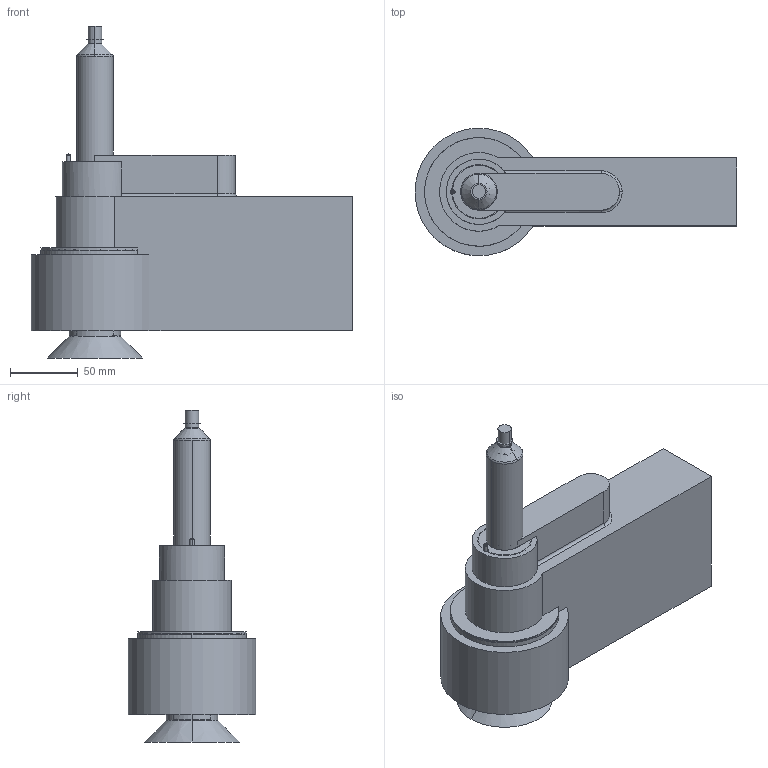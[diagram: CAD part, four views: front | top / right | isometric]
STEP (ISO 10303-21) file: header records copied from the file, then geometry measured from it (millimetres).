
FILE_DESCRIPTION (( 'STEP AP214' ), '1' );
FILE_NAME ('09SVP-03-090-V#P.STEP', '2023-01-05T08:26:05', ( '' ), ( '' ), 'SwSTEP 2.0', 'SolidWorks 2018', '' );
FILE_SCHEMA (( 'AUTOMOTIVE_DESIGN' ));
Length unit declared in the file: millimetre
Products named in the file (9): DIN912_M05x006; DIN7984_M05x040; DIN6325_04m6x12; cutout_09SVP-03-090-##P; 09SVP-03-090-V#P; nozzle_09SVP-03-090-##P; DIN912_M03x014; DIN914_DIN914-M3x5-45H; DIN915_M05x10
Assembly tree (16 placements, depth 2):
  09SVP-03-090-V#P
    DIN6325_04m6x12
    DIN7984_M05x040  x4
    DIN912_M03x014  x4
    DIN915_M05x10
    DIN912_M05x006  x2
    DIN914_DIN914-M3x5-45H  x2
    nozzle_09SVP-03-090-##P
    cutout_09SVP-03-090-##P
Bounding box: 237 x 93.98 x 244.45 mm (x, y, z)
Volume: 1477918.8 mm3; surface area: 191607.3 mm2
Topology: 15 solids, 25 shells, 1241 faces, 3134 edges, 2005 vertices
Faces by surface type: plane 561, cylinder 352, cone 169, bspline 84, torus 69, sphere 6
Entity records: 44423 total; most frequent: CARTESIAN_POINT 16606, ORIENTED_EDGE 5642, DIRECTION 5372, EDGE_CURVE 2822, AXIS2_PLACEMENT_3D 1933, VERTEX_POINT 1817, LINE 1506, VECTOR 1506
